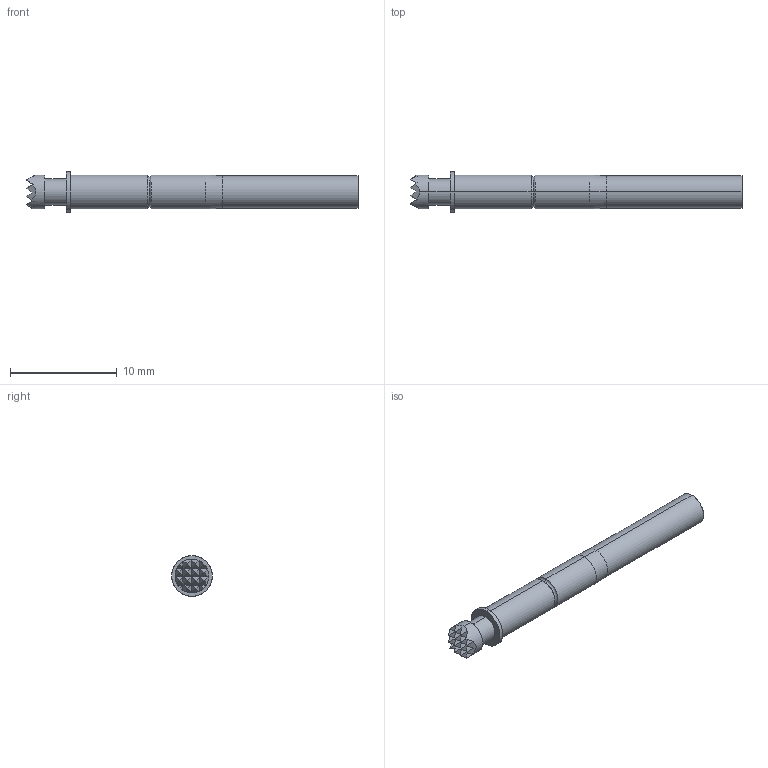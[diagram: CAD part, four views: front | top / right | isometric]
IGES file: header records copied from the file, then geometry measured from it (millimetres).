
Start section: SolidWorks IGES file using analytic representation for surfaces
Global section: file name: O:\PYLON\IGES FILES\P2550\P2550-9 REC'D.IGS; native system: SolidWorks 2015; preprocessor: SolidWorks 2015; author: kgolden; date: 171020.115051; units: inch
Bounding box: 31.14 x 3.81 x 3.81 mm (x, y, z)
Surface area: 397.2 mm2 (no closed solid volume)
Topology: 0 solids, 0 shells, 74 faces, 623 edges, 621 vertices
Faces by surface type: bspline 58, revolution 16
